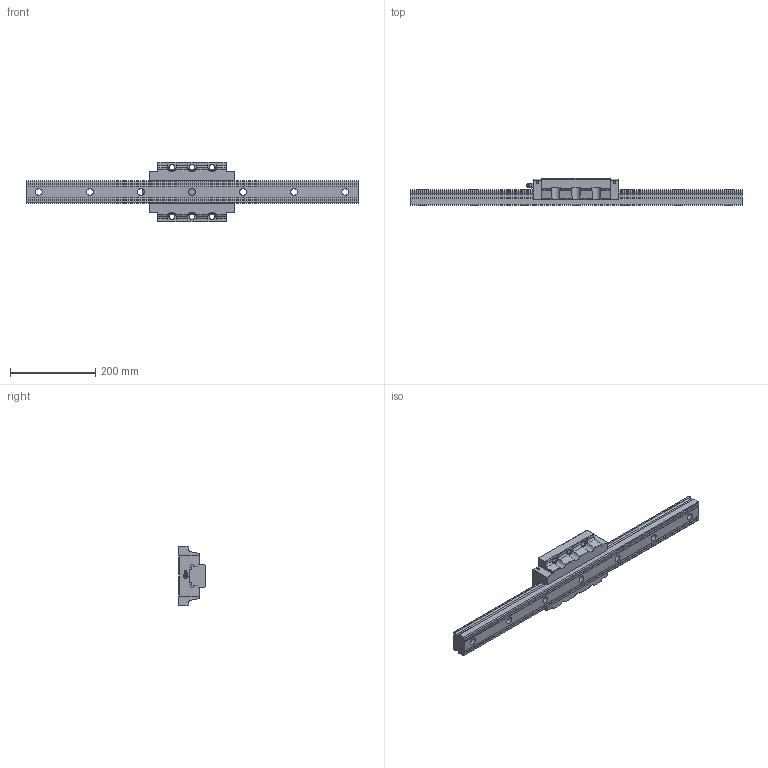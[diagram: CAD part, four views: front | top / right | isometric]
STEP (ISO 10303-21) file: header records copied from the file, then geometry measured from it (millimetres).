
FILE_DESCRIPTION(/* description */ ('STEP AP203'),/* implementation_level */ '2;1');
FILE_NAME(/* name */ 'SVR55LC1SS-780L_G30_0_B-PT18_289-75_0_0_0_1',/* time_stamp */ '2024-05-17T07:23:43+02:00',/* author */ ('License CC BY-ND 4.0'),/* organization */ ('CADENAS'),/* preprocessor_version */ 'ST-DEVELOPER v19.3',/* originating_system */ 'PARTsolutions',/* authorisation */ ' ');
FILE_SCHEMA (('CONFIG_CONTROL_DESIGN'));
Length unit declared in the file: millimetre
Products named in the file (4): SVR55LC1SS-780L_G30_0_B-PT18_289-75_0_0_0_1; SVR 55LC78030 R Track; SVR 55LC1SSB-PT1/81 Slide; B-PT1/8_grease_nipple_joint1_SVR
Assembly tree (3 placements, depth 2):
  SVR55LC1SS-780L_G30_0_B-PT18_289-75_0_0_0_1
    SVR 55LC78030 R Track
    SVR 55LC1SSB-PT1/81 Slide
    B-PT1/8_grease_nipple_joint1_SVR
Bounding box: 780 x 63 x 140 mm (x, y, z)
Volume: 2230012 mm3; surface area: 257768.6 mm2
Topology: 3 solids, 3 shells, 248 faces, 666 edges, 437 vertices
Faces by surface type: plane 140, cylinder 79, cone 24, torus 3, sphere 2
Full cylindrical faces by diameter (mm): 5.2 x4, 9.6 x1, 12.5 x6, 16 x7, 23 x7
Entity records: 7642 total; most frequent: CARTESIAN_POINT 1481, DIRECTION 1244, ORIENTED_EDGE 1202, EDGE_CURVE 601, AXIS2_PLACEMENT_3D 442, VERTEX_POINT 428, LINE 360, VECTOR 360
